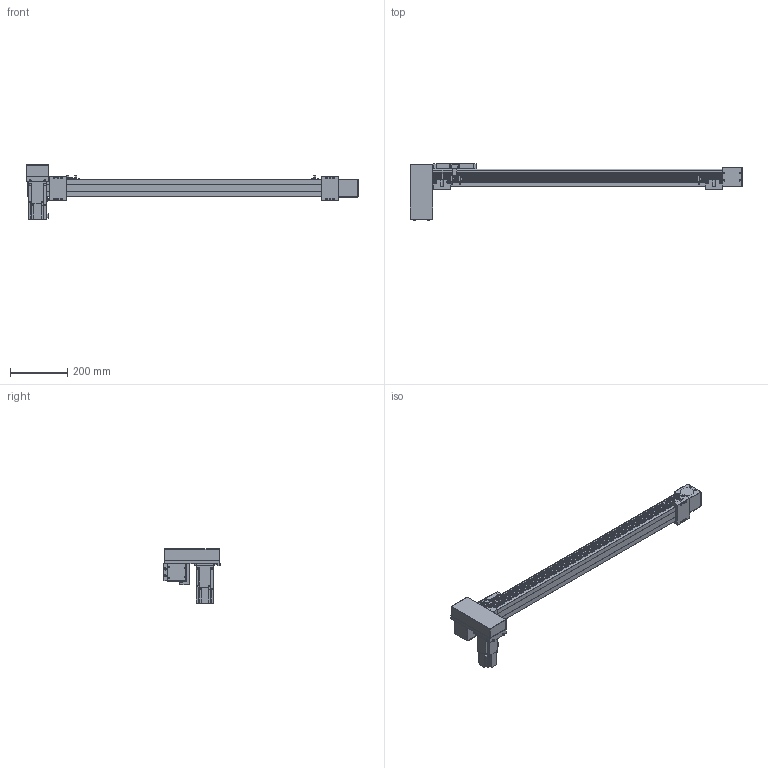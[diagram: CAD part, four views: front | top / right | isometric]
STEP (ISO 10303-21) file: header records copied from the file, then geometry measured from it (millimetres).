
FILE_DESCRIPTION(/* description */ ('STEP AP214'),/* implementation_level */ '2;1');
FILE_NAME(/* name */ 'SK60-P13-S850-RD-T40-C1-N(0)',/* time_stamp */ '2023-04-06T04:55:30+02:00',/* author */ ('License CC BY-ND 4.0'),/* organization */ ('CADENAS'),/* preprocessor_version */ 'ST-DEVELOPER v19.3',/* originating_system */ 'PARTsolutions',/* authorisation */ ' ');
FILE_SCHEMA (('AUTOMOTIVE_DESIGN {1 0 10303 214 3 1 1}'));
Length unit declared in the file: millimetre
Products named in the file (10): SK60-P13-S850-RD-T40-C1-N(0); PSC140-sensor; SK60-S450_seat; SK60-S450-BL-C1_slider; SK60_body3; SK60_body6; SK60-BL_body2; T40-p1; SK60-RD_fb; SK60-S850-RD-C1_body
Assembly tree (16 placements, depth 2):
  SK60-P13-S850-RD-T40-C1-N(0)
    PSC140-sensor  x3
    SK60-S450_seat  x2
    SK60-S450-BL-C1_slider
    SK60_body3  x3
    SK60_body6  x2
    SK60-BL_body2  x2
    T40-p1
    SK60-RD_fb
    SK60-S850-RD-C1_body
Bounding box: 1155.5 x 199 x 189.7 mm (x, y, z)
Volume: 5105455.5 mm3; surface area: 646273.8 mm2
Topology: 16 solids, 16 shells, 810 faces, 2048 edges, 1349 vertices
Faces by surface type: plane 524, cylinder 262, cone 22, torus 2
Full cylindrical faces by diameter (mm): 2.8 x3, 3.3 x4, 4 x2, 4.5 x30, 4.6 x3, 4.917 x16, 5 x6, 5.478 x4, 5.5 x19, 6.5 x4, 7 x2, 8 x4, 8.5 x4, 9.988 x4, 10 x8, 14 x1, 47 x3, 50 x2
Entity records: 18655 total; most frequent: DIRECTION 3184, CARTESIAN_POINT 3150, ORIENTED_EDGE 2940, EDGE_CURVE 1470, AXIS2_PLACEMENT_3D 1068, LINE 1048, VECTOR 1048, VERTEX_POINT 1034
